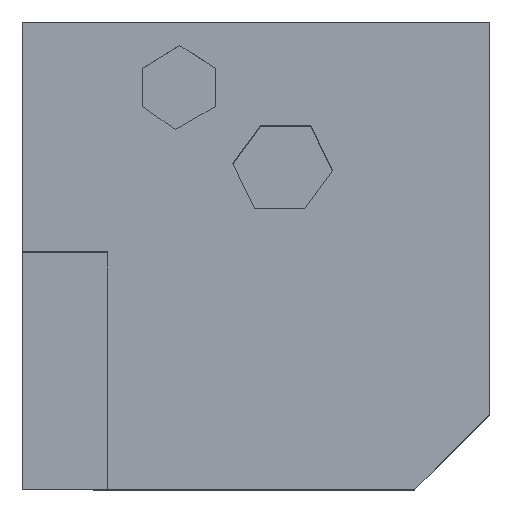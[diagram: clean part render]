
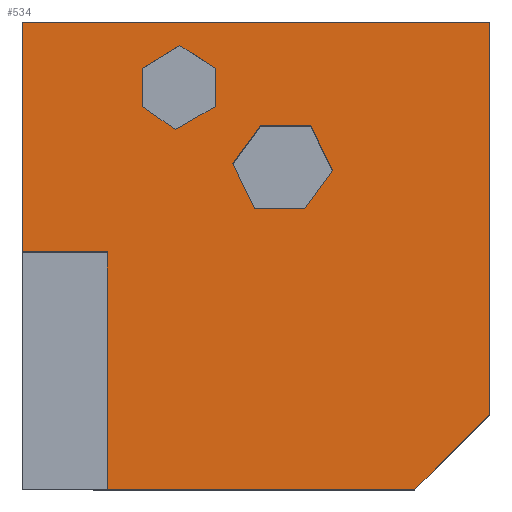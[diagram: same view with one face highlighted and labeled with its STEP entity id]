
A CAD part, top view. The second image highlights one B-rep face of the part: STEP entity #534.
In plain terms, the highlighted planar face has unit normal (0, 0, 1).
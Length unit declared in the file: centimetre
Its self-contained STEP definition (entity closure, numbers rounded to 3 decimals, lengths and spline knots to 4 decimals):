
#3 = VECTOR ( 'NONE', #39, 100. ) ;
#4 = LINE ( 'NONE', #933, #211 ) ;
#5 = LINE ( 'NONE', #817, #773 ) ;
#14 = VERTEX_POINT ( 'NONE', #127 ) ;
#17 = CARTESIAN_POINT ( 'NONE',  ( 256.8022, 900.5519, 1000. ) ) ;
#20 = LINE ( 'NONE', #1162, #295 ) ;
#24 = DIRECTION ( 'NONE',  ( 0., 1., 0. ) ) ;
#39 = DIRECTION ( 'NONE',  ( 1., 0., 0. ) ) ;
#77 = EDGE_CURVE ( 'NONE', #844, #313, #4, .T. ) ;
#80 = ORIENTED_EDGE ( 'NONE', *, *, #898, .T. ) ;
#98 = DIRECTION ( 'NONE',  ( 0.82, -0.572, 0. ) ) ;
#103 = ORIENTED_EDGE ( 'NONE', *, *, #285, .T. ) ;
#127 = CARTESIAN_POINT ( 'NONE',  ( 1000., 1000., 1000. ) ) ;
#144 = VERTEX_POINT ( 'NONE', #947 ) ;
#147 = PLANE ( 'NONE',  #271 ) ;
#172 = DIRECTION ( 'NONE',  ( -0.439, 0.898, 0. ) ) ;
#184 = CARTESIAN_POINT ( 'NONE',  ( 412.7529, 819.0111, 1000. ) ) ;
#186 = DIRECTION ( 'NONE',  ( -1., 0., 0. ) ) ;
#189 = ORIENTED_EDGE ( 'NONE', *, *, #77, .F. ) ;
#193 = LINE ( 'NONE', #633, #1496 ) ;
#205 = ORIENTED_EDGE ( 'NONE', *, *, #901, .T. ) ;
#209 = CARTESIAN_POINT ( 'NONE',  ( 617.0315, 778.0186, 1000. ) ) ;
#211 = VECTOR ( 'NONE', #1054, 100. ) ;
#215 = DIRECTION ( 'NONE',  ( 0.439, -0.898, 0. ) ) ;
#226 = LINE ( 'NONE', #567, #878 ) ;
#230 = VERTEX_POINT ( 'NONE', #709 ) ;
#240 = CARTESIAN_POINT ( 'NONE',  ( 1000., 159.8751, 1000. ) ) ;
#246 = VERTEX_POINT ( 'NONE', #719 ) ;
#262 = EDGE_CURVE ( 'NONE', #722, #1271, #1192, .T. ) ;
#271 = AXIS2_PLACEMENT_3D ( 'NONE', #596, #946, #1437 ) ;
#285 = EDGE_CURVE ( 'NONE', #1180, #813, #1462, .T. ) ;
#293 = VECTOR ( 'NONE', #965, 100. ) ;
#295 = VECTOR ( 'NONE', #98, 100. ) ;
#313 = VERTEX_POINT ( 'NONE', #875 ) ;
#314 = DIRECTION ( 'NONE',  ( -0.838, 0.546, 0. ) ) ;
#326 = CARTESIAN_POINT ( 'NONE',  ( 0., 507.7167, 1000. ) ) ;
#348 = CARTESIAN_POINT ( 'NONE',  ( 412.7529, 900.5519, 1000. ) ) ;
#357 = VERTEX_POINT ( 'NONE', #1009 ) ;
#371 = CARTESIAN_POINT ( 'NONE',  ( 664.1773, 681.5629, 1000. ) ) ;
#378 = VECTOR ( 'NONE', #1395, 100. ) ;
#381 = ORIENTED_EDGE ( 'NONE', *, *, #262, .F. ) ;
#391 = DIRECTION ( 'NONE',  ( -0.592, -0.806, 0. ) ) ;
#401 = CARTESIAN_POINT ( 'NONE',  ( 0., 1000., 1000. ) ) ;
#423 = VECTOR ( 'NONE', #1053, 100. ) ;
#461 = EDGE_CURVE ( 'NONE', #736, #722, #670, .T. ) ;
#488 = VECTOR ( 'NONE', #1405, 100. ) ;
#501 = CARTESIAN_POINT ( 'NONE',  ( 617.0315, 778.0186, 1000. ) ) ;
#505 = FACE_OUTER_BOUND ( 'NONE', #1176, .T. ) ;
#513 = VERTEX_POINT ( 'NONE', #501 ) ;
#518 = ORIENTED_EDGE ( 'NONE', *, *, #1474, .F. ) ;
#523 = VECTOR ( 'NONE', #655, 100. ) ;
#524 = EDGE_CURVE ( 'NONE', #246, #844, #828, .T. ) ;
#525 = DIRECTION ( 'NONE',  ( 0., 1., 0. ) ) ;
#528 = ORIENTED_EDGE ( 'NONE', *, *, #524, .F. ) ;
#534 = ADVANCED_FACE ( 'NONE', ( #505, #1173, #616 ), #147, .T. ) ;
#536 = EDGE_LOOP ( 'NONE', ( #595, #1141, #381, #1046, #518, #1032 ) ) ;
#560 = ORIENTED_EDGE ( 'NONE', *, *, #854, .T. ) ;
#561 = CARTESIAN_POINT ( 'NONE',  ( 182.0645, 507.7167, 1000. ) ) ;
#566 = ORIENTED_EDGE ( 'NONE', *, *, #1160, .T. ) ;
#567 = CARTESIAN_POINT ( 'NONE',  ( 182.0645, 507.7167, 1000. ) ) ;
#570 = EDGE_CURVE ( 'NONE', #1240, #1266, #1182, .T. ) ;
#584 = LINE ( 'NONE', #1492, #423 ) ;
#595 = ORIENTED_EDGE ( 'NONE', *, *, #999, .F. ) ;
#596 = CARTESIAN_POINT ( 'NONE',  ( 0., 0., 1000. ) ) ;
#615 = EDGE_CURVE ( 'NONE', #14, #357, #1093, .T. ) ;
#616 = FACE_BOUND ( 'NONE', #536, .T. ) ;
#633 = CARTESIAN_POINT ( 'NONE',  ( 1000., 1000., 1000. ) ) ;
#646 = ORIENTED_EDGE ( 'NONE', *, *, #1312, .F. ) ;
#655 = DIRECTION ( 'NONE',  ( 0.707, 0.707, 0. ) ) ;
#662 = CARTESIAN_POINT ( 'NONE',  ( 420.0625, -420.0625, 1000. ) ) ;
#670 = LINE ( 'NONE', #1016, #919 ) ;
#685 = ORIENTED_EDGE ( 'NONE', *, *, #1110, .F. ) ;
#709 = CARTESIAN_POINT ( 'NONE',  ( 509.9255, 778.0186, 1000. ) ) ;
#711 = LINE ( 'NONE', #957, #1251 ) ;
#719 = CARTESIAN_POINT ( 'NONE',  ( 337.2306, 949.8196, 1000. ) ) ;
#722 = VERTEX_POINT ( 'NONE', #972 ) ;
#729 = CARTESIAN_POINT ( 'NONE',  ( 497.1111, 599.9039, 1000. ) ) ;
#731 = VECTOR ( 'NONE', #1379, 100. ) ;
#736 = VERTEX_POINT ( 'NONE', #774 ) ;
#746 = VECTOR ( 'NONE', #24, 100. ) ;
#748 = LINE ( 'NONE', #209, #1374 ) ;
#764 = LINE ( 'NONE', #1359, #980 ) ;
#773 = VECTOR ( 'NONE', #1391, 100. ) ;
#774 = CARTESIAN_POINT ( 'NONE',  ( 449.9653, 696.3596, 1000. ) ) ;
#787 = CARTESIAN_POINT ( 'NONE',  ( 604.2171, 599.9039, 1000. ) ) ;
#808 = DIRECTION ( 'NONE',  ( 0., -1., 0. ) ) ;
#813 = VERTEX_POINT ( 'NONE', #240 ) ;
#814 = LINE ( 'NONE', #1152, #731 ) ;
#817 = CARTESIAN_POINT ( 'NONE',  ( 0., 507.7167, 1000. ) ) ;
#825 = VERTEX_POINT ( 'NONE', #561 ) ;
#828 = LINE ( 'NONE', #1076, #293 ) ;
#843 = VECTOR ( 'NONE', #186, 100. ) ;
#844 = VERTEX_POINT ( 'NONE', #17 ) ;
#854 = EDGE_CURVE ( 'NONE', #1109, #1180, #897, .T. ) ;
#863 = EDGE_CURVE ( 'NONE', #1024, #1240, #584, .T. ) ;
#875 = CARTESIAN_POINT ( 'NONE',  ( 256.8022, 819.0111, 1000. ) ) ;
#878 = VECTOR ( 'NONE', #808, 100. ) ;
#894 = VERTEX_POINT ( 'NONE', #326 ) ;
#897 = LINE ( 'NONE', #1027, #378 ) ;
#898 = EDGE_CURVE ( 'NONE', #357, #894, #814, .T. ) ;
#901 = EDGE_CURVE ( 'NONE', #825, #1109, #226, .T. ) ;
#919 = VECTOR ( 'NONE', #215, 100. ) ;
#933 = CARTESIAN_POINT ( 'NONE',  ( 256.8022, 900.5519, 1000. ) ) ;
#946 = DIRECTION ( 'NONE',  ( 0., 0., 1. ) ) ;
#947 = CARTESIAN_POINT ( 'NONE',  ( 664.1773, 681.5629, 1000. ) ) ;
#951 = LINE ( 'NONE', #371, #1083 ) ;
#953 = CARTESIAN_POINT ( 'NONE',  ( 412.7529, 819.0111, 1000. ) ) ;
#957 = CARTESIAN_POINT ( 'NONE',  ( 509.9255, 778.0186, 1000. ) ) ;
#965 = DIRECTION ( 'NONE',  ( -0.853, -0.522, 0. ) ) ;
#972 = CARTESIAN_POINT ( 'NONE',  ( 497.1111, 599.9039, 1000. ) ) ;
#980 = VECTOR ( 'NONE', #314, 100. ) ;
#999 = EDGE_CURVE ( 'NONE', #144, #513, #951, .T. ) ;
#1009 = CARTESIAN_POINT ( 'NONE',  ( 0., 1000., 1000. ) ) ;
#1016 = CARTESIAN_POINT ( 'NONE',  ( 449.9653, 696.3596, 1000. ) ) ;
#1024 = VERTEX_POINT ( 'NONE', #1188 ) ;
#1027 = CARTESIAN_POINT ( 'NONE',  ( 0., 0., 1000. ) ) ;
#1032 = ORIENTED_EDGE ( 'NONE', *, *, #1128, .F. ) ;
#1037 = LINE ( 'NONE', #787, #488 ) ;
#1046 = ORIENTED_EDGE ( 'NONE', *, *, #461, .F. ) ;
#1053 = DIRECTION ( 'NONE',  ( 0.866, 0.5, 0. ) ) ;
#1054 = DIRECTION ( 'NONE',  ( 0., -1., 0. ) ) ;
#1075 = ORIENTED_EDGE ( 'NONE', *, *, #570, .F. ) ;
#1076 = CARTESIAN_POINT ( 'NONE',  ( 337.2306, 949.8196, 1000. ) ) ;
#1083 = VECTOR ( 'NONE', #172, 100. ) ;
#1093 = LINE ( 'NONE', #401, #843 ) ;
#1101 = ORIENTED_EDGE ( 'NONE', *, *, #1320, .F. ) ;
#1109 = VERTEX_POINT ( 'NONE', #1441 ) ;
#1110 = EDGE_CURVE ( 'NONE', #1266, #246, #764, .T. ) ;
#1128 = EDGE_CURVE ( 'NONE', #513, #230, #748, .T. ) ;
#1134 = ORIENTED_EDGE ( 'NONE', *, *, #863, .F. ) ;
#1141 = ORIENTED_EDGE ( 'NONE', *, *, #1275, .F. ) ;
#1152 = CARTESIAN_POINT ( 'NONE',  ( 0., 1000., 1000. ) ) ;
#1154 = CARTESIAN_POINT ( 'NONE',  ( 604.2171, 599.9039, 1000. ) ) ;
#1160 = EDGE_CURVE ( 'NONE', #813, #14, #193, .T. ) ;
#1162 = CARTESIAN_POINT ( 'NONE',  ( 256.8022, 819.0111, 1000. ) ) ;
#1173 = FACE_BOUND ( 'NONE', #1215, .T. ) ;
#1176 = EDGE_LOOP ( 'NONE', ( #205, #560, #103, #566, #1222, #80, #1101 ) ) ;
#1180 = VERTEX_POINT ( 'NONE', #1465 ) ;
#1182 = LINE ( 'NONE', #953, #746 ) ;
#1188 = CARTESIAN_POINT ( 'NONE',  ( 327.4187, 769.7433, 1000. ) ) ;
#1192 = LINE ( 'NONE', #729, #3 ) ;
#1215 = EDGE_LOOP ( 'NONE', ( #1075, #1134, #646, #189, #528, #685 ) ) ;
#1222 = ORIENTED_EDGE ( 'NONE', *, *, #615, .T. ) ;
#1223 = DIRECTION ( 'NONE',  ( -1., 0., 0. ) ) ;
#1240 = VERTEX_POINT ( 'NONE', #184 ) ;
#1251 = VECTOR ( 'NONE', #391, 100. ) ;
#1266 = VERTEX_POINT ( 'NONE', #348 ) ;
#1271 = VERTEX_POINT ( 'NONE', #1154 ) ;
#1275 = EDGE_CURVE ( 'NONE', #1271, #144, #1037, .T. ) ;
#1312 = EDGE_CURVE ( 'NONE', #313, #1024, #20, .T. ) ;
#1320 = EDGE_CURVE ( 'NONE', #825, #894, #5, .T. ) ;
#1359 = CARTESIAN_POINT ( 'NONE',  ( 412.7529, 900.5519, 1000. ) ) ;
#1374 = VECTOR ( 'NONE', #1223, 100. ) ;
#1379 = DIRECTION ( 'NONE',  ( 0., -1., 0. ) ) ;
#1391 = DIRECTION ( 'NONE',  ( -1., 0., 0. ) ) ;
#1395 = DIRECTION ( 'NONE',  ( 1., 0., 0. ) ) ;
#1405 = DIRECTION ( 'NONE',  ( 0.592, 0.806, 0. ) ) ;
#1437 = DIRECTION ( 'NONE',  ( 1., 0., 0. ) ) ;
#1441 = CARTESIAN_POINT ( 'NONE',  ( 182.0645, 0., 1000. ) ) ;
#1462 = LINE ( 'NONE', #662, #523 ) ;
#1465 = CARTESIAN_POINT ( 'NONE',  ( 840.1249, 0., 1000. ) ) ;
#1474 = EDGE_CURVE ( 'NONE', #230, #736, #711, .T. ) ;
#1492 = CARTESIAN_POINT ( 'NONE',  ( 327.4187, 769.7433, 1000. ) ) ;
#1496 = VECTOR ( 'NONE', #525, 100. ) ;
